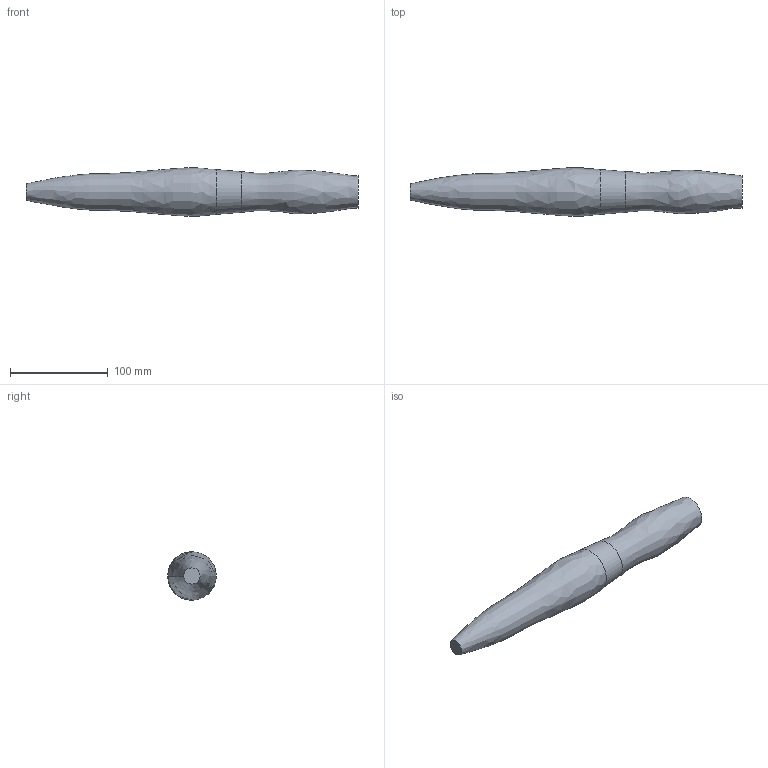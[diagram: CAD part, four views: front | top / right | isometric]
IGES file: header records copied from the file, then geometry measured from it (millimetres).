
Global section: file name: No Iges File Name specified; native system: AutoDesk Inventor R6.1; preprocessor: AutoDesk Inventor Iges Exporter R6.1; author: No Author specified; organization: No Organization specified; date: 20050811.082241; units: millimetre
Bounding box: 339.5 x 49.93 x 50.02 mm (x, y, z)
Surface area: 42650.9 mm2 (no closed solid volume)
Topology: 0 solids, 0 shells, 5 faces, 15 edges, 8 vertices
Faces by surface type: bspline 3, revolution 1, plane 1
